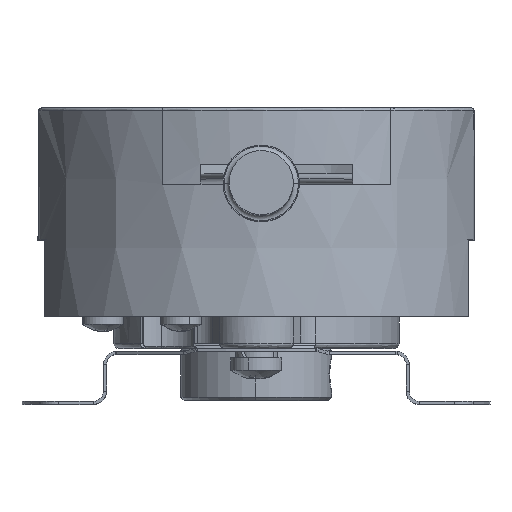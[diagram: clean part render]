
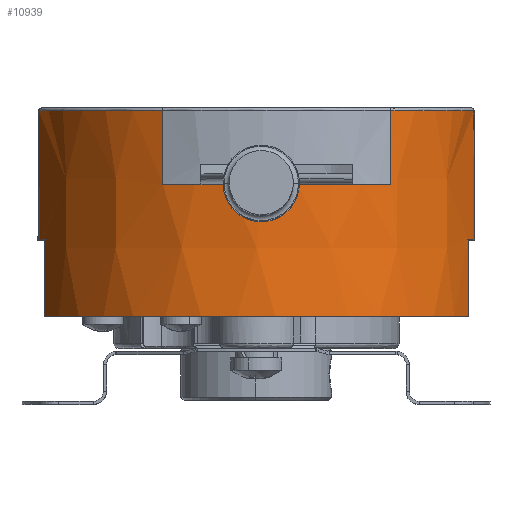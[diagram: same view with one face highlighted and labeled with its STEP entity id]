
A CAD part, top view. The second image highlights one B-rep face of the part: STEP entity #10939.
In plain terms, the highlighted conical face has half-angle 0.3 degrees and reference radius 21.907 mm.
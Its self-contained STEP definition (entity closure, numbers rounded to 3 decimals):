
#148 = ORIENTED_EDGE ( 'NONE', *, *, #22731, .T. ) ;
#164 = CARTESIAN_POINT ( 'NONE',  ( 0., -20.9, 0. ) ) ;
#169 = FACE_OUTER_BOUND ( 'NONE', #16341, .T. ) ;
#366 = B_SPLINE_CURVE_WITH_KNOTS ( 'NONE', 3,
 ( #20630, #1822, #11163, #24207 ),
 .UNSPECIFIED., .F., .F.,
 ( 4, 4 ),
 ( 0., 1. ),
 .UNSPECIFIED. ) ;
#468 = ORIENTED_EDGE ( 'NONE', *, *, #16957, .T. ) ;
#554 = CARTESIAN_POINT ( 'NONE',  ( -9.2, -7.95, 19.807 ) ) ;
#571 = CARTESIAN_POINT ( 'NONE',  ( -21.416, -13.4, 4.423 ) ) ;
#579 = DIRECTION ( 'NONE',  ( 0., 0., 1. ) ) ;
#606 = VERTEX_POINT ( 'NONE', #20298 ) ;
#1031 = EDGE_CURVE ( 'NONE', #6569, #9766, #19393, .T. ) ;
#1263 = DIRECTION ( 'NONE',  ( 0.005, -1., 0.001 ) ) ;
#1526 = CARTESIAN_POINT ( 'NONE',  ( -20.799, -15.9, 6.796 ) ) ;
#1677 = DIRECTION ( 'NONE',  ( 1., 0., 0. ) ) ;
#1708 = ORIENTED_EDGE ( 'NONE', *, *, #9746, .F. ) ;
#1822 = CARTESIAN_POINT ( 'NONE',  ( 20.812, -18.4, 6.798 ) ) ;
#2176 = EDGE_CURVE ( 'NONE', #9766, #14392, #6966, .T. ) ;
#2237 = CARTESIAN_POINT ( 'NONE',  ( 13.2, -3.149, 17.367 ) ) ;
#2456 = ORIENTED_EDGE ( 'NONE', *, *, #23386, .F. ) ;
#2568 = DIRECTION ( 'NONE',  ( 0., -1., 0. ) ) ;
#2648 = CARTESIAN_POINT ( 'NONE',  ( 21.416, -13.4, 4.423 ) ) ;
#2838 = DIRECTION ( 'NONE',  ( 0., -1., 0. ) ) ;
#2919 = CARTESIAN_POINT ( 'NONE',  ( 0., -13.4, 0. ) ) ;
#2998 = DIRECTION ( 'NONE',  ( 1., 0., 0. ) ) ;
#3114 = CARTESIAN_POINT ( 'NONE',  ( -9.2, -0.748, 19.765 ) ) ;
#3146 = DIRECTION ( 'NONE',  ( 1., 0., 0. ) ) ;
#3360 = CIRCLE ( 'NONE', #17906, 21.907 ) ;
#4008 = EDGE_CURVE ( 'NONE', #10755, #13518, #20886, .T. ) ;
#4335 = CARTESIAN_POINT ( 'NONE',  ( -9.2, -5.549, 19.793 ) ) ;
#4364 = EDGE_CURVE ( 'NONE', #14392, #17155, #14549, .T. ) ;
#4504 = CARTESIAN_POINT ( 'NONE',  ( 0., -0.748, 0. ) ) ;
#4607 = VECTOR ( 'NONE', #1263, 1000. ) ;
#4654 = CARTESIAN_POINT ( 'NONE',  ( 13.2, -7.95, 17.399 ) ) ;
#4711 = CARTESIAN_POINT ( 'NONE',  ( -21.35, -0.748, 4.414 ) ) ;
#6542 = AXIS2_PLACEMENT_3D ( 'NONE', #24054, #14505, #1677 ) ;
#6559 = ORIENTED_EDGE ( 'NONE', *, *, #19379, .T. ) ;
#6569 = VERTEX_POINT ( 'NONE', #24253 ) ;
#6966 = CIRCLE ( 'NONE', #8544, 21.839 ) ;
#7351 = CARTESIAN_POINT ( 'NONE',  ( -20.812, -18.4, 6.798 ) ) ;
#7841 = LINE ( 'NONE', #15992, #4607 ) ;
#8266 = DIRECTION ( 'NONE',  ( 0., 0., 1. ) ) ;
#8388 = CARTESIAN_POINT ( 'NONE',  ( -20.825, -20.9, 6.8 ) ) ;
#8544 = AXIS2_PLACEMENT_3D ( 'NONE', #23615, #17971, #2998 ) ;
#8924 = AXIS2_PLACEMENT_3D ( 'NONE', #2919, #2838, #3146 ) ;
#9117 = CIRCLE ( 'NONE', #9888, 21.802 ) ;
#9160 = VERTEX_POINT ( 'NONE', #2648 ) ;
#9438 = DIRECTION ( 'NONE',  ( 1., 0., 0. ) ) ;
#9746 = EDGE_CURVE ( 'NONE', #10832, #9160, #7841, .T. ) ;
#9766 = VERTEX_POINT ( 'NONE', #16398 ) ;
#9888 = AXIS2_PLACEMENT_3D ( 'NONE', #19220, #2568, #579 ) ;
#10210 = ORIENTED_EDGE ( 'NONE', *, *, #4008, .F. ) ;
#10416 = LINE ( 'NONE', #15660, #16236 ) ;
#10584 = AXIS2_PLACEMENT_3D ( 'NONE', #4504, #15923, #8266 ) ;
#10746 = CIRCLE ( 'NONE', #8924, 21.868 ) ;
#10755 = VERTEX_POINT ( 'NONE', #15955 ) ;
#10832 = VERTEX_POINT ( 'NONE', #14802 ) ;
#10924 = CARTESIAN_POINT ( 'NONE',  ( 0., -20.9, 0. ) ) ;
#10939 = ADVANCED_FACE ( 'NONE', ( #169 ), #23560, .T. ) ;
#11019 = DIRECTION ( 'NONE',  ( 0., 1., 0. ) ) ;
#11163 = CARTESIAN_POINT ( 'NONE',  ( 20.799, -15.9, 6.796 ) ) ;
#11263 = EDGE_CURVE ( 'NONE', #10755, #21471, #16490, .T. ) ;
#11991 = VERTEX_POINT ( 'NONE', #14887 ) ;
#12126 = ORIENTED_EDGE ( 'NONE', *, *, #11263, .T. ) ;
#12241 = CARTESIAN_POINT ( 'NONE',  ( -9.2, -0.748, 19.765 ) ) ;
#12873 = DIRECTION ( 'NONE',  ( 1., 0., 0. ) ) ;
#13051 = ORIENTED_EDGE ( 'NONE', *, *, #23728, .F. ) ;
#13518 = VERTEX_POINT ( 'NONE', #571 ) ;
#14392 = VERTEX_POINT ( 'NONE', #23378 ) ;
#14415 = CIRCLE ( 'NONE', #10584, 21.802 ) ;
#14505 = DIRECTION ( 'NONE',  ( 0., -1., 0. ) ) ;
#14549 = B_SPLINE_CURVE_WITH_KNOTS ( 'NONE', 3,
 ( #554, #4335, #21393, #12241 ),
 .UNSPECIFIED., .F., .F.,
 ( 4, 4 ),
 ( 0., 0.007 ),
 .UNSPECIFIED. ) ;
#14802 = CARTESIAN_POINT ( 'NONE',  ( 21.35, -0.748, 4.414 ) ) ;
#14887 = CARTESIAN_POINT ( 'NONE',  ( 20.786, -13.4, 6.794 ) ) ;
#15371 = ORIENTED_EDGE ( 'NONE', *, *, #1031, .T. ) ;
#15660 = CARTESIAN_POINT ( 'NONE',  ( -21.383, -7.072, 4.418 ) ) ;
#15923 = DIRECTION ( 'NONE',  ( 0., -1., 0. ) ) ;
#15955 = CARTESIAN_POINT ( 'NONE',  ( -20.786, -13.4, 6.794 ) ) ;
#15992 = CARTESIAN_POINT ( 'NONE',  ( 21.383, -7.072, 4.418 ) ) ;
#16236 = VECTOR ( 'NONE', #21302, 1000. ) ;
#16341 = EDGE_LOOP ( 'NONE', ( #12126, #6559, #468, #2456, #1708, #23482, #15371, #17976, #19641, #148, #13051, #10210 ) ) ;
#16398 = CARTESIAN_POINT ( 'NONE',  ( 13.2, -7.95, 17.399 ) ) ;
#16490 = B_SPLINE_CURVE_WITH_KNOTS ( 'NONE', 3,
 ( #16657, #1526, #7351, #20175 ),
 .UNSPECIFIED., .F., .F.,
 ( 4, 4 ),
 ( 0., 1. ),
 .UNSPECIFIED. ) ;
#16657 = CARTESIAN_POINT ( 'NONE',  ( -20.786, -13.4, 6.794 ) ) ;
#16957 = EDGE_CURVE ( 'NONE', #606, #11991, #366, .T. ) ;
#17155 = VERTEX_POINT ( 'NONE', #3114 ) ;
#17906 = AXIS2_PLACEMENT_3D ( 'NONE', #10924, #11019, #12873 ) ;
#17971 = DIRECTION ( 'NONE',  ( 0., -1., 0. ) ) ;
#17976 = ORIENTED_EDGE ( 'NONE', *, *, #2176, .T. ) ;
#18578 = AXIS2_PLACEMENT_3D ( 'NONE', #164, #20526, #9438 ) ;
#19049 = CARTESIAN_POINT ( 'NONE',  ( 13.2, -5.549, 17.383 ) ) ;
#19123 = VERTEX_POINT ( 'NONE', #4711 ) ;
#19220 = CARTESIAN_POINT ( 'NONE',  ( 0., -0.748, 0. ) ) ;
#19379 = EDGE_CURVE ( 'NONE', #21471, #606, #3360, .T. ) ;
#19393 = B_SPLINE_CURVE_WITH_KNOTS ( 'NONE', 3,
 ( #21103, #2237, #19049, #4654 ),
 .UNSPECIFIED., .F., .F.,
 ( 4, 4 ),
 ( 0., 0.007 ),
 .UNSPECIFIED. ) ;
#19641 = ORIENTED_EDGE ( 'NONE', *, *, #4364, .T. ) ;
#20175 = CARTESIAN_POINT ( 'NONE',  ( -20.825, -20.9, 6.8 ) ) ;
#20298 = CARTESIAN_POINT ( 'NONE',  ( 20.825, -20.9, 6.8 ) ) ;
#20526 = DIRECTION ( 'NONE',  ( 0., -1., 0. ) ) ;
#20630 = CARTESIAN_POINT ( 'NONE',  ( 20.825, -20.9, 6.8 ) ) ;
#20886 = CIRCLE ( 'NONE', #6542, 21.868 ) ;
#20981 = EDGE_CURVE ( 'NONE', #10832, #6569, #14415, .T. ) ;
#21103 = CARTESIAN_POINT ( 'NONE',  ( 13.2, -0.748, 17.351 ) ) ;
#21302 = DIRECTION ( 'NONE',  ( 0.005, 1., -0.001 ) ) ;
#21393 = CARTESIAN_POINT ( 'NONE',  ( -9.2, -3.149, 19.779 ) ) ;
#21471 = VERTEX_POINT ( 'NONE', #8388 ) ;
#22731 = EDGE_CURVE ( 'NONE', #17155, #19123, #9117, .T. ) ;
#23378 = CARTESIAN_POINT ( 'NONE',  ( -9.2, -7.95, 19.807 ) ) ;
#23386 = EDGE_CURVE ( 'NONE', #9160, #11991, #10746, .T. ) ;
#23482 = ORIENTED_EDGE ( 'NONE', *, *, #20981, .T. ) ;
#23560 = CONICAL_SURFACE ( 'NONE', #18578, 21.907, 0.005 ) ;
#23615 = CARTESIAN_POINT ( 'NONE',  ( 0., -7.95, 0. ) ) ;
#23728 = EDGE_CURVE ( 'NONE', #13518, #19123, #10416, .T. ) ;
#24054 = CARTESIAN_POINT ( 'NONE',  ( 0., -13.4, 0. ) ) ;
#24207 = CARTESIAN_POINT ( 'NONE',  ( 20.786, -13.4, 6.794 ) ) ;
#24253 = CARTESIAN_POINT ( 'NONE',  ( 13.2, -0.748, 17.351 ) ) ;
